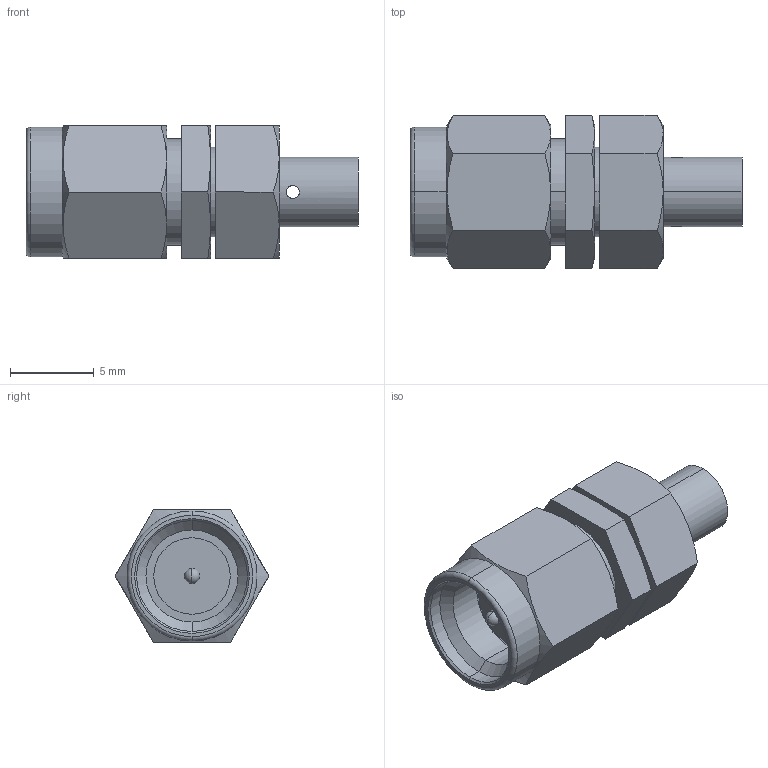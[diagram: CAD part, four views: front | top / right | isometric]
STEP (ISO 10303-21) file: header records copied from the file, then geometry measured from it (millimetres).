
FILE_DESCRIPTION (( 'STEP AP214' ), '1' );
FILE_NAME ('SF1511-60086.STEP', '2017-01-10T18:23:02', ( '' ), ( '' ), 'SwSTEP 2.0', 'SolidWorks 2016', '' );
FILE_SCHEMA (( 'AUTOMOTIVE_DESIGN' ));
Length unit declared in the file: inch
Products named in the file (1): SF1511-60086
Bounding box: 19.79 x 9.15 x 7.92 mm (x, y, z)
Volume: 653.7 mm3; surface area: 1037.2 mm2
Topology: 1 solids, 1 shells, 110 faces, 260 edges, 161 vertices
Faces by surface type: cylinder 38, plane 38, cone 30, sphere 2, torus 2
Entity records: 4759 total; most frequent: CARTESIAN_POINT 794, DIRECTION 528, ORIENTED_EDGE 512, EDGE_CURVE 256, AXIS2_PLACEMENT_3D 213, VERTEX_POINT 159, EDGE_LOOP 129, LENGTH_MEASURE_WITH_UNIT 112
